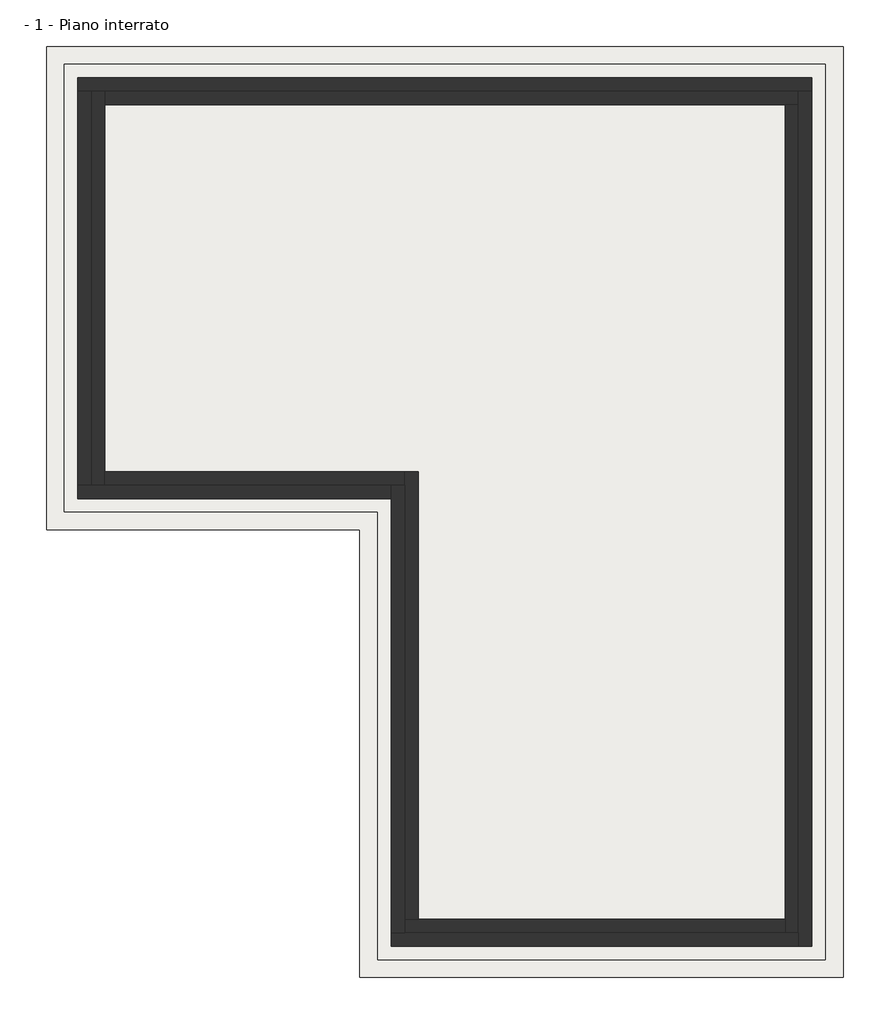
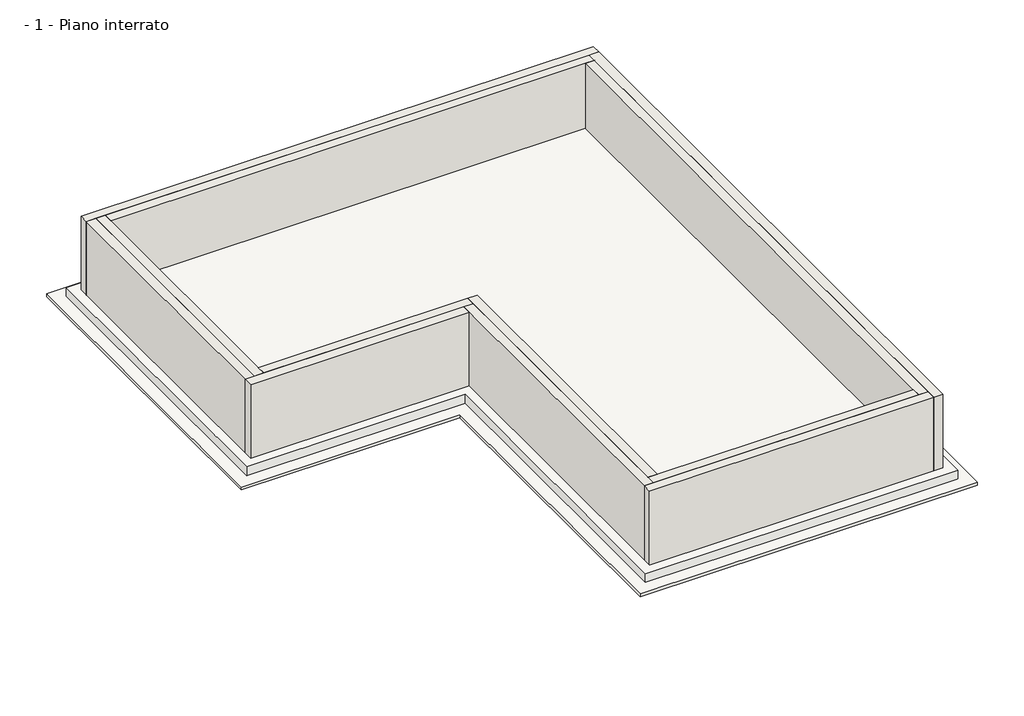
# One storey: 12 walls, 3 proxies, 3 slabs.
"""IFC4 building model written with IfcOpenShell, lengths in millimetres."""

from ifc_helpers import new_model, si_unit, frame, origin, place, context, project, spatial, polyline, outline, extrude, faceted_brep, transform, mapped, element, save
from components import generic_models_3b7ed561

model = new_model("IFC4")

# Units and contexts
model_context = context("Model", 3, world=origin())
ifc_project = project(units=[si_unit("LENGTHUNIT", "METRE", prefix="MILLI")], contexts=[model_context])

# Site, building, storey
site = spatial("IfcSite", under=ifc_project)
building = spatial("IfcBuilding", under=site)
storey = spatial("IfcBuildingStorey", under=building, Name="- 1 - Piano interrato", Elevation=-2500.0)

# Proxies
placement = place(None, origin())
element("IfcBuildingElementProxy", 1, Name="WT CONSTRUCTION VOLTECO", ObjectType="WT CONSTRUCTION VOLTECO", at=placement, inside=storey, context=model_context, shape_type="SweptSolid", body=[
    extrude(outline(polyline([(-7503.3968209, 253.148913), (-7528.3968209, 228.148913), (-7528.3968209, 9029.148913), (-7503.3968209, 9004.148913), (-7503.3968209, 253.148913)])), frame((0.0, 0.0, -2200.0), z_axis=(0.0, 0.0, 1.0), x_axis=(1.0, 0.0, 0.0)), (0.0, 0.0, 1.0), 15.0),
    extrude(outline(polyline([(-7503.3968209, 9004.148913), (-7528.3968209, 9029.148913), (8272.6031791, 9029.148913), (8247.6031791, 9004.148913), (-7503.3968209, 9004.148913)])), frame((0.0, 0.0, -2200.0), z_axis=(0.0, 0.0, 1.0), x_axis=(1.0, 0.0, 0.0)), (0.0, 0.0, 1.0), 15.0),
    extrude(outline(polyline([(8247.6031791, 9004.148913), (8272.6031791, 9029.148913), (8272.6031791, -9771.851087), (8247.6031791, -9746.851087), (8247.6031791, 9004.148913)])), frame((0.0, 0.0, -2200.0), z_axis=(0.0, 0.0, 1.0), x_axis=(1.0, 0.0, 0.0)), (0.0, 0.0, 1.0), 15.0),
    extrude(outline(polyline([(-503.3968209, 253.148913), (-528.3968209, 228.148913), (-7528.3968209, 228.148913), (-7503.3968209, 253.148913), (-503.3968209, 253.148913)])), frame((0.0, 0.0, -2200.0), z_axis=(0.0, 0.0, 1.0), x_axis=(1.0, 0.0, 0.0)), (0.0, 0.0, 1.0), 15.0),
    extrude(outline(polyline([(-503.3968209, -9746.851087), (-528.3968209, -9771.851087), (-528.3968209, 228.148913), (-503.3968209, 253.148913), (-503.3968209, -9746.851087)])), frame((0.0, 0.0, -2200.0), z_axis=(0.0, 0.0, 1.0), x_axis=(1.0, 0.0, 0.0)), (0.0, 0.0, 1.0), 15.0),
    extrude(outline(polyline([(8247.6031791, -9746.851087), (8272.6031791, -9771.851087), (-528.3968209, -9771.851087), (-503.3968209, -9746.851087), (8247.6031791, -9746.851087)])), frame((0.0, 0.0, -2200.0), z_axis=(0.0, 0.0, 1.0), x_axis=(1.0, 0.0, 0.0)), (0.0, 0.0, 1.0), 15.0),
])
generic_models_shape = generic_models_3b7ed561(model_context)
element("IfcBuildingElementProxy", 2, Name="ITA-Connettori su parete verticale sigillati con AKTI-VO 201 : ITA-Connettori su parete verticale sigillati con AKTI-VO 201", ObjectType="ITA-Connettori su parete verticale sigillati con AKTI-VO 201 : ITA-Connettori su parete verticale sigillati con AKTI-VO 201", at=placement, inside=storey, context=model_context, shape_type="MappedRepresentation", body=[
    mapped(generic_models_shape, transform((-527.8968209, -9111.351087, -2454.0667641), x_axis=(0.0, 1.0, 0.0), y_axis=(0.0, 0.0, 1.0), z_axis=(1.0, 0.0, 0.0))),
])
element("IfcBuildingElementProxy", 3, Name="ITA-Connettori su struttura orizzontale sigillati con AKTI-VO 201 : ITA-Connettori su struttura orizzontale sigillati con AKTI-VO 201", ObjectType="ITA-Connettori su struttura orizzontale sigillati con AKTI-VO 201 : ITA-Connettori su struttura orizzontale sigillati con AKTI-VO 201", at=placement, inside=storey, context=model_context, shape_type="MappedRepresentation", body=[
    mapped(generic_models_shape, transform((912.1031791, -9171.351087, -2500.0), x_axis=(0.0, -1.0, 0.0), y_axis=(1.0, 0.0, 0.0), z_axis=(0.0, 0.0, 1.0))),
])

# Slabs
element("IfcSlab", 4, ObjectType="Pieno in c.a. - 30 cm", at=placement, inside=storey, context=model_context, shape_type="SweptSolid", body=[
    extrude(outline(polyline([(-8127.8968209, -371.351087), (-8127.8968209, 9628.648913), (8872.1031791, 9628.648913), (8872.1031791, -10371.351087), (-1127.8968209, -10371.351087), (-1127.8968209, -371.351087), (-8127.8968209, -371.351087)])), frame((0.0, 0.0, -2800.0), z_axis=(0.0, 0.0, 1.0), x_axis=(1.0, 0.0, 0.0)), (0.0, 0.0, 1.0), 300.0),
])
element("IfcSlab", 5, ObjectType="Pieno in c.a. - 30 cm", at=placement, inside=storey, context=model_context, shape_type="SweptSolid", body=[
    extrude(outline(polyline([(-7527.8968209, 228.648913), (-7527.8968209, 9028.648913), (8272.1031791, 9028.648913), (8272.1031791, -9771.351087), (-527.8968209, -9771.351087), (-527.8968209, 228.648913), (-7527.8968209, 228.648913)])), frame((0.0, 0.0, -2500.0), z_axis=(0.0, 0.0, 1.0), x_axis=(1.0, 0.0, 0.0)), (0.0, 0.0, 1.0), 300.0),
])
element("IfcSlab", 6, ObjectType="Magrone - 10 cm", at=placement, inside=storey, context=model_context, shape_type="SweptSolid", body=[
    extrude(outline(polyline([(-8527.8968209, 10028.648913), (9272.1031791, 10028.648913), (9272.1031791, -10771.351087), (-1527.8968209, -10771.351087), (-1527.8968209, -771.351087), (-8527.8968209, -771.351087), (-8527.8968209, 10028.648913)])), frame((0.0, 0.0, -2900.0), z_axis=(0.0, 0.0, 1.0), x_axis=(1.0, 0.0, 0.0)), (0.0, 0.0, 1.0), 100.0),
])

# Walls
element("IfcWall", 7, ObjectType="Generico - 30 cm", at=placement, inside=storey, context=model_context, shape_type="Brep", body=[
    faceted_brep([(-7827.8968209, 9028.648913, -2500.0), (-7527.8968209, 9028.648913, -2500.0), (8272.1031791, 9028.648913, -2500.0), (8572.1031791, 9028.648913, -2500.0), (8572.1031791, 9028.648913, 0.0), (8272.1031791, 9028.648913, 0.0), (-7527.8968209, 9028.648913, 0.0), (-7827.8968209, 9028.648913, 0.0), (-7827.8968209, 9328.648913, -2500.0), (-7827.8968209, 9328.648913, 0.0), (8572.1031791, 9328.648913, 0.0), (8572.1031791, 9328.648913, -2500.0)], [[[0, 1, 2, 3, 4, 5, 6, 7]], [[8, 9, 10, 11]], [[3, 2, 1, 0, 8, 11]], [[7, 6, 5, 4, 10, 9]], [[4, 3, 11, 10]], [[0, 7, 9, 8]]]),
])
element("IfcWall", 8, ObjectType="Generico - 30 cm", at=placement, inside=storey, context=model_context, shape_type="Brep", body=[
    faceted_brep([(8272.1031791, 9028.648913, -2500.0), (8272.1031791, -9771.351087, -2500.0), (8272.1031791, -10071.351087, -2500.0), (8272.1031791, -10071.351087, 0.0), (8272.1031791, -9771.351087, 0.0), (8272.1031791, 9028.648913, 0.0), (8572.1031791, 9028.648913, -2500.0), (8572.1031791, 9028.648913, 0.0), (8572.1031791, -10071.351087, 0.0), (8572.1031791, -10071.351087, -2500.0)], [[[0, 1, 2, 3, 4, 5]], [[6, 7, 8, 9]], [[2, 1, 0, 6, 9]], [[5, 4, 3, 8, 7]], [[0, 5, 7, 6]], [[3, 2, 9, 8]]]),
])
element("IfcWall", 9, ObjectType="Generico - 30 cm", at=placement, inside=storey, context=model_context, shape_type="Brep", body=[
    faceted_brep([(8272.1031791, -9771.351087, -2500.0), (-527.8968209, -9771.351087, -2500.0), (-827.8968209, -9771.351087, -2500.0), (-827.8968209, -9771.351087, 0.0), (-527.8968209, -9771.351087, 0.0), (8272.1031791, -9771.351087, 0.0), (8272.1031791, -10071.351087, -2500.0), (8272.1031791, -10071.351087, 0.0), (-827.8968209, -10071.351087, 0.0), (-827.8968209, -10071.351087, -2500.0)], [[[0, 1, 2, 3, 4, 5]], [[6, 7, 8, 9]], [[2, 1, 0, 6, 9]], [[5, 4, 3, 8, 7]], [[0, 5, 7, 6]], [[3, 2, 9, 8]]]),
])
element("IfcWall", 10, ObjectType="Generico - 30 cm", at=placement, inside=storey, context=model_context, shape_type="Brep", body=[
    faceted_brep([(-527.8968209, -9771.351087, -2500.0), (-527.8968209, 228.648913, -2500.0), (-527.8968209, 228.648913, 0.0), (-527.8968209, -9771.351087, 0.0), (-827.8968209, -9771.351087, -2500.0), (-827.8968209, -9771.351087, 0.0), (-827.8968209, -71.351087, 0.0), (-827.8968209, 228.648913, 0.0), (-827.8968209, 228.648913, -2500.0), (-827.8968209, -71.351087, -2500.0)], [[[0, 1, 2, 3]], [[4, 5, 6, 7, 8, 9]], [[1, 0, 4, 9, 8]], [[3, 2, 7, 6, 5]], [[0, 3, 5, 4]], [[2, 1, 8, 7]]]),
])
element("IfcWall", 11, ObjectType="Generico - 30 cm", at=placement, inside=storey, context=model_context, shape_type="Brep", body=[
    faceted_brep([(-827.8968209, 228.648913, -2500.0), (-7527.8968209, 228.648913, -2500.0), (-7827.8968209, 228.648913, -2500.0), (-7827.8968209, 228.648913, 0.0), (-7527.8968209, 228.648913, 0.0), (-827.8968209, 228.648913, 0.0), (-827.8968209, -71.351087, -2500.0), (-827.8968209, -71.351087, 0.0), (-7827.8968209, -71.351087, 0.0), (-7827.8968209, -71.351087, -2500.0)], [[[0, 1, 2, 3, 4, 5]], [[6, 7, 8, 9]], [[2, 1, 0, 6, 9]], [[5, 4, 3, 8, 7]], [[0, 5, 7, 6]], [[3, 2, 9, 8]]]),
])
element("IfcWall", 12, ObjectType="Generico - 30 cm", at=placement, inside=storey, context=model_context, shape_type="SweptSolid", body=[
    extrude(outline(polyline([(-7527.8968209, 9028.648913), (-7527.8968209, 228.648913), (-7827.8968209, 228.648913), (-7827.8968209, 9028.648913), (-7527.8968209, 9028.648913)])), frame((0.0, 0.0, -2500.0), z_axis=(0.0, 0.0, 1.0), x_axis=(1.0, 0.0, 0.0)), (0.0, 0.0, 1.0), 2500.0),
])
element("IfcWall", 13, ObjectType="Generico - 30 cm", at=placement, inside=storey, context=model_context, shape_type="Brep", body=[
    faceted_brep([(-7227.8968209, 9028.648913, 0.0), (-7227.8968209, 8728.648913, 0.0), (-7227.8968209, 528.648913, 0.0), (-7227.8968209, 228.648913, 0.0), (-7227.8968209, 228.648913, -2185.0), (-7227.8968209, 253.148913, -2185.0), (-7227.8968209, 253.148913, -2200.0), (-7227.8968209, 528.648913, -2200.0), (-7227.8968209, 8728.648913, -2200.0), (-7227.8968209, 9004.148913, -2200.0), (-7227.8968209, 9004.148913, -2185.0), (-7227.8968209, 9028.648913, -2185.0), (-7527.8968209, 228.648913, 0.0), (-7527.8968209, 9028.648913, 0.0), (-7527.8968209, 9028.648913, -2185.0), (-7527.8968209, 228.648913, -2185.0), (-7503.3968209, 253.148913, -2200.0), (-7503.3968209, 9004.148913, -2200.0), (-7503.3968209, 9004.148913, -2185.0), (-7503.3968209, 253.148913, -2185.0)], [[[0, 1, 2, 3, 4, 5, 6, 7, 8, 9, 10, 11]], [[12, 13, 14, 15]], [[9, 8, 7, 6, 16, 17]], [[3, 2, 1, 0, 13, 12]], [[13, 0, 11, 14]], [[3, 12, 15, 4]], [[18, 19, 5, 4, 15, 14, 11, 10]], [[19, 16, 6, 5]], [[16, 19, 18, 17]], [[17, 18, 10, 9]]]),
])
element("IfcWall", 14, ObjectType="Generico - 30 cm", at=placement, inside=storey, context=model_context, shape_type="Brep", body=[
    faceted_brep([(8272.1031791, 8728.648913, 0.0), (7972.1031791, 8728.648913, 0.0), (-7227.8968209, 8728.648913, 0.0), (-7227.8968209, 8728.648913, -2200.0), (7972.1031791, 8728.648913, -2200.0), (8247.6031791, 8728.648913, -2200.0), (8247.6031791, 8728.648913, -2185.0), (8272.1031791, 8728.648913, -2185.0), (-7227.8968209, 9028.648913, 0.0), (8272.1031791, 9028.648913, 0.0), (8272.1031791, 9028.648913, -2185.0), (-7227.8968209, 9028.648913, -2185.0), (-7227.8968209, 9004.148913, -2200.0), (8247.6031791, 9004.148913, -2200.0), (-7227.8968209, 9004.148913, -2185.0), (8247.6031791, 9004.148913, -2185.0)], [[[0, 1, 2, 3, 4, 5, 6, 7]], [[8, 9, 10, 11]], [[5, 4, 3, 12, 13]], [[2, 1, 0, 9, 8]], [[3, 2, 8, 11, 14, 12]], [[9, 0, 7, 10]], [[6, 15, 14, 11, 10, 7]], [[15, 13, 12, 14]], [[13, 15, 6, 5]]]),
])
element("IfcWall", 15, ObjectType="Generico - 30 cm", at=placement, inside=storey, context=model_context, shape_type="Brep", body=[
    faceted_brep([(7972.1031791, -9771.351087, 0.0), (7972.1031791, -9471.351087, 0.0), (7972.1031791, 8728.648913, 0.0), (7972.1031791, 8728.648913, -2200.0), (7972.1031791, -9471.351087, -2200.0), (7972.1031791, -9746.851087, -2200.0), (7972.1031791, -9746.851087, -2185.0), (7972.1031791, -9771.351087, -2185.0), (8272.1031791, 8728.648913, 0.0), (8272.1031791, -9771.351087, 0.0), (8272.1031791, -9771.351087, -2185.0), (8272.1031791, 8728.648913, -2185.0), (8247.6031791, 8728.648913, -2200.0), (8247.6031791, -9746.851087, -2200.0), (8247.6031791, 8728.648913, -2185.0), (8247.6031791, -9746.851087, -2185.0)], [[[0, 1, 2, 3, 4, 5, 6, 7]], [[8, 9, 10, 11]], [[5, 4, 3, 12, 13]], [[2, 1, 0, 9, 8]], [[3, 2, 8, 11, 14, 12]], [[9, 0, 7, 10]], [[6, 15, 14, 11, 10, 7]], [[15, 13, 12, 14]], [[13, 15, 6, 5]]]),
])
element("IfcWall", 16, ObjectType="Generico - 30 cm", at=placement, inside=storey, context=model_context, shape_type="Brep", body=[
    faceted_brep([(-527.8968209, -9471.351087, 0.0), (-227.8968209, -9471.351087, 0.0), (7972.1031791, -9471.351087, 0.0), (7972.1031791, -9471.351087, -2200.0), (-227.8968209, -9471.351087, -2200.0), (-503.3968209, -9471.351087, -2200.0), (-503.3968209, -9471.351087, -2185.0), (-527.8968209, -9471.351087, -2185.0), (7972.1031791, -9771.351087, 0.0), (-527.8968209, -9771.351087, 0.0), (-527.8968209, -9771.351087, -2185.0), (7972.1031791, -9771.351087, -2185.0), (7972.1031791, -9746.851087, -2200.0), (-503.3968209, -9746.851087, -2200.0), (7972.1031791, -9746.851087, -2185.0), (-503.3968209, -9746.851087, -2185.0)], [[[0, 1, 2, 3, 4, 5, 6, 7]], [[8, 9, 10, 11]], [[5, 4, 3, 12, 13]], [[2, 1, 0, 9, 8]], [[3, 2, 8, 11, 14, 12]], [[9, 0, 7, 10]], [[6, 15, 14, 11, 10, 7]], [[15, 13, 12, 14]], [[13, 15, 6, 5]]]),
])
element("IfcWall", 17, ObjectType="Generico - 30 cm", at=placement, inside=storey, context=model_context, shape_type="Brep", body=[
    faceted_brep([(-227.8968209, -9471.351087, -2200.0), (-227.8968209, 528.648913, -2200.0), (-227.8968209, 528.648913, 0.0), (-227.8968209, -9471.351087, 0.0), (-527.8968209, -9471.351087, 0.0), (-527.8968209, 228.648913, 0.0), (-527.8968209, 528.648913, 0.0), (-527.8968209, 528.648913, -2200.0), (-527.8968209, 253.148913, -2200.0), (-527.8968209, 253.148913, -2185.0), (-527.8968209, 228.648913, -2185.0), (-527.8968209, -9471.351087, -2185.0), (-503.3968209, -9471.351087, -2200.0), (-503.3968209, 253.148913, -2200.0), (-503.3968209, -9471.351087, -2185.0), (-503.3968209, 253.148913, -2185.0)], [[[0, 1, 2, 3]], [[4, 5, 6, 7, 8, 9, 10, 11]], [[1, 0, 12, 13, 8, 7]], [[3, 2, 6, 5, 4]], [[0, 3, 4, 11, 14, 12]], [[2, 1, 7, 6]], [[9, 15, 14, 11, 10]], [[15, 13, 12, 14]], [[13, 15, 9, 8]]]),
])
element("IfcWall", 18, ObjectType="Generico - 30 cm", at=placement, inside=storey, context=model_context, shape_type="SweptSolid", body=[
    extrude(outline(polyline([(528.648913, 0.0), (528.648913, -2200.0), (253.148913, -2200.0), (253.148913, -2185.0), (228.648913, -2185.0), (228.648913, 0.0), (528.648913, 0.0)])), frame((-7227.8968209, 0.0, 0.0), z_axis=(1.0, 0.0, 0.0), x_axis=(0.0, 1.0, 0.0)), (0.0, 0.0, 1.0), 6700.0),
])

save(model, "model.ifc")
